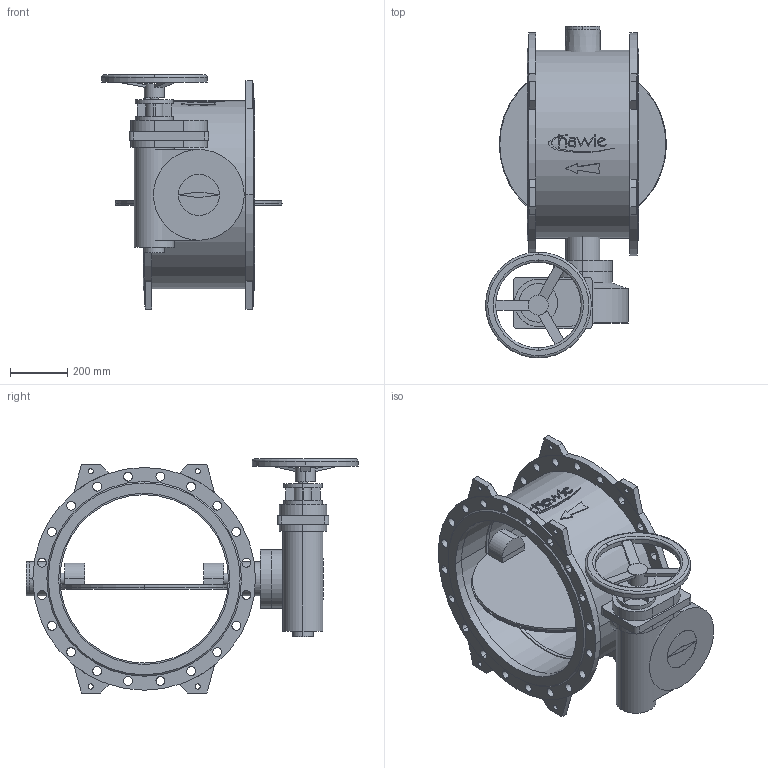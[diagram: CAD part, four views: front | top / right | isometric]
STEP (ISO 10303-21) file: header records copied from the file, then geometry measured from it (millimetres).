
FILE_DESCRIPTION(('STEP AP214'),'1');
FILE_NAME('S:/EK/USER/CAT6/3DHomepage_27-04-2012/neu_08-01-2013/9881K/9881K_PN10_DN600_7800.STP','2013-03-11T14:54:16',(' '),(' '),'Spatial InterOp 3D',' ',' ');
FILE_SCHEMA(('automotive_design'));
Length unit declared in the file: millimetre
Products named in the file (52): 3D-Objekt
Bounding box: 634 x 1163 x 820 mm (x, y, z)
Volume: 67804992.7 mm3; surface area: 5251409.8 mm2
Topology: 52 solids, 52 shells, 455 faces, 1046 edges, 698 vertices
Faces by surface type: plane 228, cylinder 215, cone 8, torus 4
Entity records: 18118 total; most frequent: DIRECTION 2536, CARTESIAN_POINT 2251, ORIENTED_EDGE 2092, EDGE_CURVE 1046, AXIS2_PLACEMENT_3D 983, VERTEX_POINT 698, EDGE_LOOP 572, LINE 570
